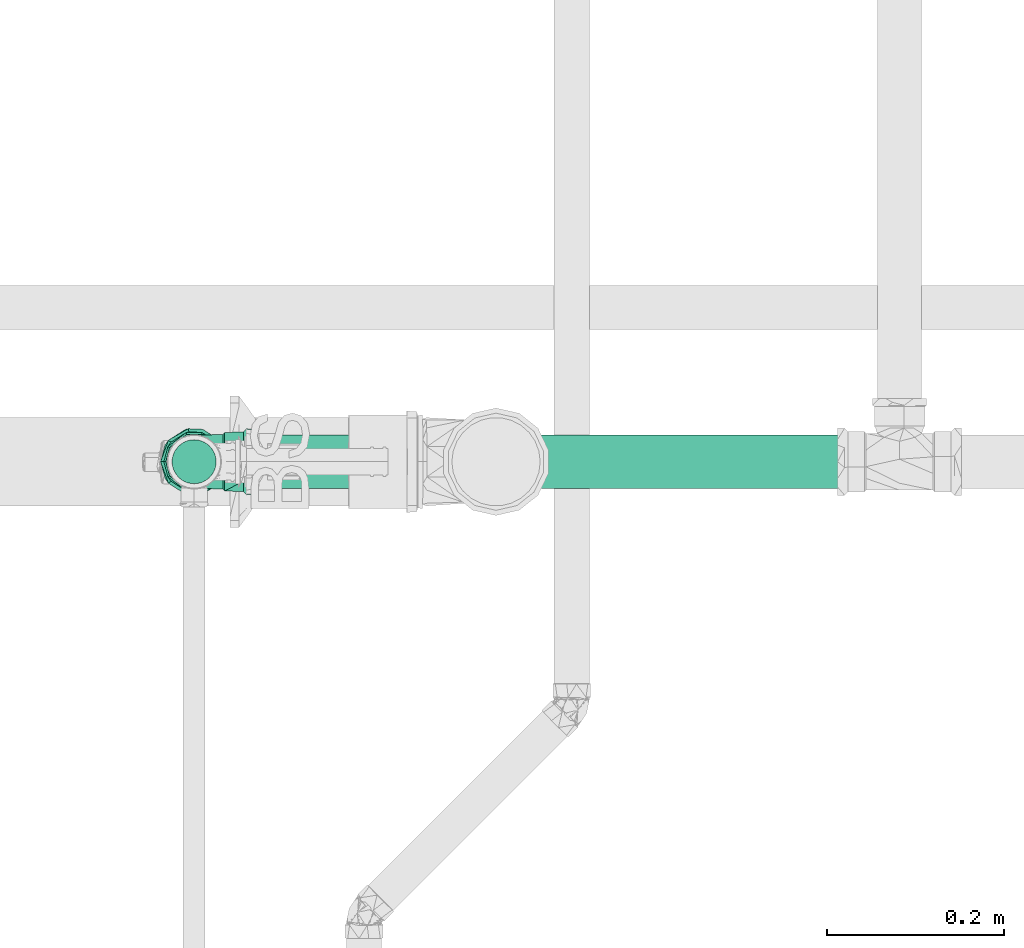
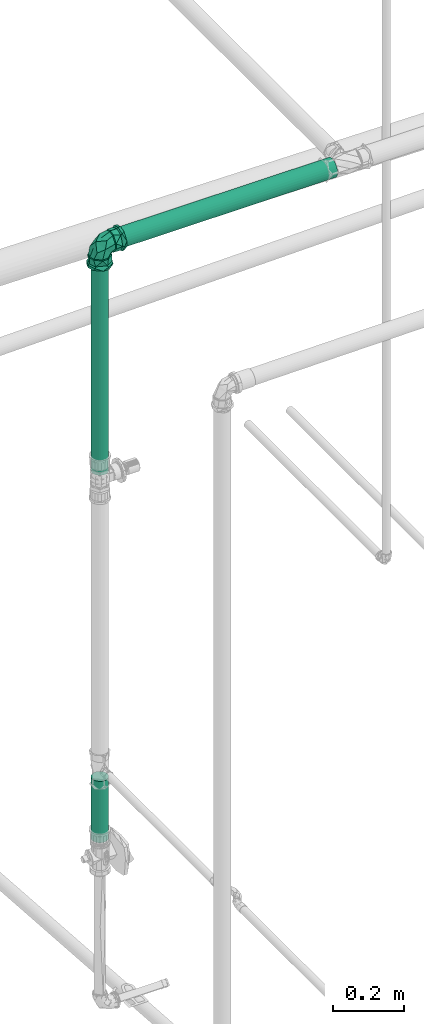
# One storey, part 82 of 589: 3 flow segments, 1 flow fitting.
"""IFC2X3 building model written with IfcOpenShell, lengths in millimetres."""

from ifc_helpers import new_model, entity, si_unit, converted_unit, derived_unit, direction, frame, frame_2d, origin, origin_2d_with_axis, place, context, subcontext, project, spatial, circle, extrude, faceted_brep, source, transform, mapped, material, type_object, type_shapes, element, save


model = new_model("IFC2X3")

# Units and contexts
model_context = context("Model", 3, precision=0.01, world=origin(), true_north=direction((6.123031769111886e-17, 1.0)))
body_context = subcontext(model_context, "Body", "Model", "MODEL_VIEW")
ifc_project = project(units=[si_unit("LENGTHUNIT", "METRE", prefix="MILLI"), si_unit("AREAUNIT", "SQUARE_METRE"), si_unit("VOLUMEUNIT", "CUBIC_METRE"), converted_unit("PLANEANGLEUNIT", "DEGREE", entity("IfcRatioMeasure", 0.017453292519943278), si_unit("PLANEANGLEUNIT", "RADIAN"), dimensions=[0, 0, 0, 0, 0, 0, 0]), si_unit("MASSUNIT", "GRAM", prefix="KILO"), derived_unit("MASSDENSITYUNIT", [(si_unit("MASSUNIT", "GRAM", prefix="KILO"), 1), (si_unit("LENGTHUNIT", "METRE"), -3)]), derived_unit("IONCONCENTRATIONUNIT", [(si_unit("MASSUNIT", "GRAM", prefix="KILO"), 1), (si_unit("LENGTHUNIT", "METRE"), -3)]), derived_unit("MOMENTOFINERTIAUNIT", [(si_unit("LENGTHUNIT", "METRE"), 4)]), si_unit("TIMEUNIT", "SECOND"), si_unit("FREQUENCYUNIT", "HERTZ"), si_unit("THERMODYNAMICTEMPERATUREUNIT", "DEGREE_CELSIUS"), derived_unit("THERMALTRANSMITTANCEUNIT", [(si_unit("MASSUNIT", "GRAM", prefix="KILO"), 1), (si_unit("THERMODYNAMICTEMPERATUREUNIT", "KELVIN"), -1), (si_unit("TIMEUNIT", "SECOND"), -3)]), derived_unit("THERMALCONDUCTANCEUNIT", [(si_unit("MASSUNIT", "GRAM", prefix="KILO"), 1), (si_unit("THERMODYNAMICTEMPERATUREUNIT", "KELVIN"), -1), (si_unit("TIMEUNIT", "SECOND"), -3), (si_unit("LENGTHUNIT", "METRE"), 1)]), derived_unit("VOLUMETRICFLOWRATEUNIT", [(si_unit("LENGTHUNIT", "METRE"), 3), (si_unit("TIMEUNIT", "SECOND"), -1)]), derived_unit("MASSFLOWRATEUNIT", [(si_unit("MASSUNIT", "GRAM", prefix="KILO"), 1), (si_unit("TIMEUNIT", "SECOND"), -1)]), derived_unit("ROTATIONALFREQUENCYUNIT", [(si_unit("TIMEUNIT", "SECOND"), -1)]), si_unit("ELECTRICCURRENTUNIT", "AMPERE"), si_unit("ELECTRICVOLTAGEUNIT", "VOLT"), si_unit("POWERUNIT", "WATT"), si_unit("FORCEUNIT", "NEWTON", prefix="KILO"), si_unit("ILLUMINANCEUNIT", "LUX"), si_unit("LUMINOUSFLUXUNIT", "LUMEN"), si_unit("LUMINOUSINTENSITYUNIT", "CANDELA"), derived_unit("USERDEFINED", [(si_unit("MASSUNIT", "GRAM", prefix="KILO"), -1), (si_unit("LENGTHUNIT", "METRE"), -2), (si_unit("TIMEUNIT", "SECOND"), 3), (si_unit("LUMINOUSFLUXUNIT", "LUMEN"), 1)]), derived_unit("USERDEFINED", [(si_unit("MASSUNIT", "GRAM", prefix="KILO"), 1), (si_unit("TIMEUNIT", "SECOND"), -3), (si_unit("LENGTHUNIT", "METRE"), 3), (si_unit("ELECTRICCURRENTUNIT", "AMPERE"), -2)]), derived_unit("SOUNDPOWERUNIT", [(si_unit("MASSUNIT", "GRAM", prefix="KILO"), 1), (si_unit("TIMEUNIT", "SECOND"), -3), (si_unit("LENGTHUNIT", "METRE"), 2)]), derived_unit("SOUNDPRESSUREUNIT", [(si_unit("MASSUNIT", "GRAM", prefix="KILO"), 1), (si_unit("LENGTHUNIT", "METRE"), -1), (si_unit("TIMEUNIT", "SECOND"), -2)]), derived_unit("LINEARVELOCITYUNIT", [(si_unit("LENGTHUNIT", "METRE"), 1), (si_unit("TIMEUNIT", "SECOND"), -1)]), si_unit("PRESSUREUNIT", "PASCAL"), derived_unit("USERDEFINED", [(si_unit("MASSUNIT", "GRAM", prefix="KILO"), 1), (si_unit("LENGTHUNIT", "METRE"), -2), (si_unit("TIMEUNIT", "SECOND"), -2)]), derived_unit("LINEARFORCEUNIT", [(si_unit("MASSUNIT", "GRAM", prefix="KILO"), 1), (si_unit("TIMEUNIT", "SECOND"), -2)]), derived_unit("PLANARFORCEUNIT", [(si_unit("MASSUNIT", "GRAM", prefix="KILO"), 1), (si_unit("LENGTHUNIT", "METRE"), -1), (si_unit("TIMEUNIT", "SECOND"), -2)]), derived_unit("SPECIFICHEATCAPACITYUNIT", [(si_unit("THERMODYNAMICTEMPERATUREUNIT", "KELVIN"), -1), (si_unit("LENGTHUNIT", "METRE"), 2), (si_unit("TIMEUNIT", "SECOND"), -2)]), derived_unit("HEATINGVALUEUNIT", [(si_unit("LENGTHUNIT", "METRE"), 2), (si_unit("TIMEUNIT", "SECOND"), -2)]), derived_unit("VAPORPERMEABILITYUNIT", [(si_unit("LENGTHUNIT", "METRE"), -1), (si_unit("TIMEUNIT", "SECOND"), 1)]), derived_unit("DYNAMICVISCOSITYUNIT", [(si_unit("MASSUNIT", "GRAM", prefix="KILO"), 1), (si_unit("TIMEUNIT", "SECOND"), -1), (si_unit("LENGTHUNIT", "METRE"), -1)]), derived_unit("THERMALEXPANSIONCOEFFICIENTUNIT", [(si_unit("THERMODYNAMICTEMPERATUREUNIT", "KELVIN"), -1)]), derived_unit("MODULUSOFELASTICITYUNIT", [(si_unit("MASSUNIT", "GRAM", prefix="KILO"), 1), (si_unit("LENGTHUNIT", "METRE"), -1), (si_unit("TIMEUNIT", "SECOND"), -2)]), derived_unit("ISOTHERMALMOISTURECAPACITYUNIT", [(si_unit("LENGTHUNIT", "METRE"), 3), (si_unit("MASSUNIT", "GRAM", prefix="KILO"), -1)]), derived_unit("MOISTUREDIFFUSIVITYUNIT", [(si_unit("TIMEUNIT", "SECOND"), -1), (si_unit("LENGTHUNIT", "METRE"), 2)])], contexts=[model_context])

# Site, building, storey
site_placement = place(None, origin())
site = spatial("IfcSite", under=ifc_project, at=site_placement, Name="Default", CompositionType="ELEMENT")
building_placement = place(site_placement, origin())
building = spatial("IfcBuilding", under=site, at=building_placement, CompositionType="ELEMENT")
storey_placement = place(building_placement, frame((0.0, 0.0, 100.0)))
storey = spatial("IfcBuildingStorey", under=building, at=storey_placement, Name="TÉRREO", CompositionType="ELEMENT", Elevation=100.0)

# Flow segments
pipe_segment_type = type_object("IfcPipeSegmentType", Name="Tipos de tubos:PVC Marrom Soldável", PredefinedType="NOTDEFINED")
flow_segment_1_placement = place(storey_placement, origin())
element("IfcFlowSegment", 1, at=flow_segment_1_placement, inside=storey, type_object=pipe_segment_type, Name="Tipos de tubos:PVC Marrom Soldável", ObjectType="Tipos de tubos:PVC Marrom Soldável", context=body_context, shape_type="SweptSolid", body=[
    extrude(circle(Radius=25.0, at=origin_2d_with_axis()), frame((-7562.714972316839, -528.9241377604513, 955.704146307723), z_axis=(0.0, 0.0, 1.0), x_axis=(-1.0, 0.0, 0.0)), (0.0, 0.0, 1.0), 211.69585369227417),
])
flow_segment_2_placement = place(storey_placement, origin())
element("IfcFlowSegment", 2, at=flow_segment_2_placement, inside=storey, type_object=pipe_segment_type, Name="Tipos de tubos:PVC Marrom Soldável", ObjectType="Tipos de tubos:PVC Marrom Soldável", context=body_context, shape_type="SweptSolid", body=[
    extrude(circle(Radius=30.0, at=frame_2d((6.767919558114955e-14, 0.0), x_axis=(1.0, 0.0))), frame((-7528.114972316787, -528.924137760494, 3000.0), z_axis=(1.0, 0.0, 0.0), x_axis=(0.0, -1.0, 0.0)), (0.0, 0.0, 1.0), 722.9444814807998),
])
flow_segment_3_placement = place(storey_placement, origin())
element("IfcFlowSegment", 3, at=flow_segment_3_placement, inside=storey, type_object=pipe_segment_type, Name="Tipos de tubos:PVC Marrom Soldável", ObjectType="Tipos de tubos:PVC Marrom Soldável", context=body_context, shape_type="SweptSolid", body=[
    extrude(circle(Radius=25.0, at=frame_2d((-1.0828671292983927e-12, 0.0), x_axis=(1.0, 0.0))), frame((-7562.714972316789, -528.9241377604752, 2221.5000000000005), z_axis=(0.0, 0.0, 1.0), x_axis=(-1.0, 0.0, 0.0)), (0.0, 0.0, 1.0), 740.1499999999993),
])

# Flow fitting
ifc_material = material(Name="PVC Marrom")
pipe_fitting_type = type_object("IfcPipeFittingType", Name="PVC Marrom Soldável_Joelho 45°_90°_Rodrigo MEP:Joelho", PredefinedType="NOTDEFINED", material=ifc_material)
shared_shape = source(origin(), body_context, "Body", "Brep", [
    faceted_brep([(-29.704671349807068, 34.60000000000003, 17.149999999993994), (-19.29108229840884, 34.600000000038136, 25.14062792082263), (-8.877493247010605, 34.60000000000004, 33.13125584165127), (8.877493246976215, 34.60000000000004, 33.13125584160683), (19.291082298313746, 34.60000000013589, 25.140627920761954), (29.70467134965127, 34.600000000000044, 17.149999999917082), (34.29999999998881, 34.600000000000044, 0.0), (29.7046713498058, 34.600000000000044, -17.150000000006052), (19.29108229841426, 34.599999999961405, -25.140627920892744), (8.877493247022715, 34.60000000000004, -33.13125584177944), (-8.877493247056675, 34.60000000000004, -33.13125584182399), (-19.291082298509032, 34.599999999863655, -25.140627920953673), (-29.704671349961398, 34.60000000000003, -17.150000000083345), (-34.30000000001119, 34.60000000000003, 0.0), (8.321032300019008, 32.400000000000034, 31.054515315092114), (-8.32103230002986, 32.400000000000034, 31.054515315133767), (-18.08187451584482, 32.40000000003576, 23.56475765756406), (-27.84271673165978, 32.40000000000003, 16.07499999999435), (-32.15000000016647, 32.40000000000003, 0.0), (-27.842716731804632, 32.40000000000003, -16.075000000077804), (-18.08187451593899, 32.399999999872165, -23.564757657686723), (-8.32103230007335, 32.400000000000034, -31.054515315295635), (8.32103230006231, 32.400000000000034, -31.054515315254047), (18.081874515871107, 32.399999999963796, -23.56475765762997), (27.8427167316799, 32.40000000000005, -16.07500000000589), (32.14999999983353, 32.40000000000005, 0.0), (27.84271673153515, 32.40000000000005, 16.074999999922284), (18.08187451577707, 32.400000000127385, 23.564757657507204)], [[[0, 1, 2, 3, 4, 5, 6, 7, 8, 9, 10, 11, 12, 13]], [[14, 15, 16, 17, 18, 19, 20, 21, 22, 23, 24, 25, 26, 27]], [[7, 25, 24]], [[9, 8, 7, 24, 23, 22]], [[20, 19, 12, 11, 10, 21]], [[7, 6, 25]], [[22, 21, 10, 9]], [[13, 19, 18]], [[13, 12, 19]], [[0, 18, 17]], [[2, 1, 0, 17, 16, 15]], [[27, 26, 5, 4, 3, 14]], [[0, 13, 18]], [[15, 14, 3, 2]], [[6, 26, 25]], [[6, 5, 26]]]),
    faceted_brep([(-34.599999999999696, -8.877493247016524, 33.13125584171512), (-34.599999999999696, 8.877493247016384, 33.13125584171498), (-34.59999999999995, 19.291082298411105, 25.140627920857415), (-34.599999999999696, 29.704671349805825, 17.14999999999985), (-34.599999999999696, 34.3, 0.0), (-34.599999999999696, 29.704671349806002, -17.149999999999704), (-34.60000000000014, 19.29108229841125, -25.140627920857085), (-34.599999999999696, 8.877493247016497, -33.13125584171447), (-34.599999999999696, -8.877493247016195, -33.131255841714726), (-34.59999999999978, -19.291082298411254, -25.1406279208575), (-34.599999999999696, -29.704671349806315, -17.150000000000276), (-34.599999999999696, -34.3, 0.0), (-34.599999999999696, -29.704671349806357, 17.15000000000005), (-34.59999999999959, -19.291082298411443, 25.14062792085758), (-32.3999999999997, 32.149999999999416, 0.0), (-32.3999999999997, 27.84271673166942, 16.074999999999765), (-32.39999999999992, 18.081874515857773, 23.564757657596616), (-32.3999999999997, 8.321032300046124, 31.054515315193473), (-32.3999999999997, -8.321032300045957, 31.05451531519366), (-32.39999999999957, -18.08187451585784, 23.564757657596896), (-32.3999999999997, -27.84271673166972, 16.075000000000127), (-32.3999999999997, -32.15000000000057, 0.0), (-32.3999999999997, -27.842716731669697, -16.07500000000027), (-32.39999999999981, -18.08187451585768, -23.56475765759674), (-32.3999999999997, -8.321032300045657, -31.054515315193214), (-32.3999999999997, 8.321032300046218, -31.05451531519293), (-32.40000000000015, 18.081874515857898, -23.56475765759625), (-32.3999999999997, 27.842716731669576, -16.074999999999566)], [[[0, 1, 2, 3, 4, 5, 6, 7, 8, 9, 10, 11, 12, 13]], [[14, 15, 16, 17, 18, 19, 20, 21, 22, 23, 24, 25, 26, 27]], [[5, 4, 14, 27]], [[7, 6, 5, 27, 26, 25]], [[23, 22, 10, 9, 8, 24]], [[25, 24, 8, 7]], [[11, 10, 22, 21]], [[12, 11, 21, 20]], [[0, 13, 12, 20, 19, 18]], [[16, 15, 3, 2, 1, 17]], [[18, 17, 1, 0]], [[4, 3, 15, 14]]]),
    faceted_brep([(-67.29999999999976, -9.835123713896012, -36.70518139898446), (-67.29999999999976, 0.0, -30.0), (-67.29999999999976, 9.835123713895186, -36.705181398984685), (-67.29999999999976, -15.0, -25.98076211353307), (-67.29999999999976, -32.90896534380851, -19.0), (-67.29999999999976, -28.977774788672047, -7.764571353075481), (-67.29999999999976, -38.0, 0.0), (-67.29999999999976, -28.97777478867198, 7.764571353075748), (-67.29999999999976, -32.90896534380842, 19.0), (-67.29999999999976, -15.0, 25.98076211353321), (-67.29999999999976, -9.835123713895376, 36.70518139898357), (-67.29999999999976, 0.0, 30.0), (-67.29999999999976, 9.835123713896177, 36.70518139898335), (-67.29999999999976, 15.0, 25.980762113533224), (-67.29999999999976, 32.90896534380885, 19.0), (-67.29999999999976, 28.977774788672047, 7.764571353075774), (-67.29999999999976, 38.0, 0.0), (-67.29999999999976, 28.977774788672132, -7.764571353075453), (-67.29999999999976, 32.90896534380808, -19.0), (-67.29999999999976, 15.0, -25.980762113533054), (-59.29999999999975, 38.0, 0.0), (-59.30000000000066, 29.109098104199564, 24.426633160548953), (-59.30000000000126, 6.596820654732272, 37.42301373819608), (-59.30000000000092, -29.111756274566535, 24.42346508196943), (-59.29999999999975, -38.0, 0.0), (-59.29999999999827, -29.111756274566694, -24.423465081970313), (-59.29999999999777, -6.600893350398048, -37.42229558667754), (-59.29999999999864, 29.109098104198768, -24.426633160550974), (-55.60000000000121, -26.279625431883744, 22.042488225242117), (-55.60000000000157, 5.952366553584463, 33.779569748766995), (-55.59999999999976, -34.3, 0.0), (-55.60000000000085, 26.274095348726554, 22.049079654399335), (-55.59999999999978, 34.299999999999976, 0.0), (-55.59999999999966, 26.27409534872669, -22.04907965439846), (-55.59999999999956, -5.960839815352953, -33.77807556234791), (-55.59999999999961, -26.279625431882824, -22.042488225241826), (-34.59999999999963, -15.0, -25.98076211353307), (-34.59999999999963, -8.877493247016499, -33.13125584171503), (-34.59999999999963, 0.0, -30.0), (-34.59999999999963, -29.704671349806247, -17.149999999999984), (-34.59999999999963, -28.977774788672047, -7.764571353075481), (-34.59999999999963, -34.3, 0.0), (-34.59999999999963, -28.97777478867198, 7.764571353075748), (-34.59999999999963, -29.70467134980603, 17.150000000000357), (-34.59999999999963, -15.0, 25.98076211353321), (-34.59999999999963, -8.877493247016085, 33.13125584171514), (-34.59999999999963, 0.0, 30.0), (-34.59999999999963, 8.877493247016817, 33.131255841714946), (-34.59999999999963, 15.0, 25.980762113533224), (-34.59999999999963, 29.70467134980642, 17.1499999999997), (-34.59999999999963, 28.977774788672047, 7.764571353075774), (-34.59999999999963, 34.300000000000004, 0.0), (-34.59999999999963, 28.977774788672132, -7.764571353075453), (-34.59999999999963, 29.704671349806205, -17.150000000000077), (-34.59999999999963, 15.0, -25.980762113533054), (-34.59999999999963, 8.877493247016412, -33.13125584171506)], [[[0, 1, 2]], [[1, 0, 3]], [[4, 3, 0]], [[3, 4, 5]], [[5, 4, 6]], [[7, 5, 6]], [[7, 6, 8]], [[8, 9, 7]], [[8, 10, 9]], [[9, 10, 11]], [[12, 11, 10]], [[13, 11, 12]], [[13, 12, 14]], [[14, 15, 13]], [[15, 14, 16]], [[15, 16, 17]], [[18, 17, 16]], [[2, 19, 18]], [[17, 18, 19]], [[19, 2, 1]], [[16, 14, 20]], [[14, 21, 20]], [[21, 14, 12]], [[21, 12, 22]], [[23, 10, 8]], [[24, 8, 6]], [[10, 23, 22]], [[23, 8, 24]], [[10, 22, 12]], [[6, 4, 24]], [[4, 25, 24]], [[25, 4, 0]], [[25, 0, 26]], [[27, 2, 18]], [[20, 18, 16]], [[2, 27, 26]], [[27, 18, 20]], [[2, 26, 0]], [[28, 29, 23]], [[30, 28, 24]], [[24, 28, 23]], [[29, 22, 23]], [[31, 32, 21]], [[21, 22, 31]], [[20, 21, 32]], [[31, 22, 29]], [[32, 33, 27]], [[27, 20, 32]], [[26, 27, 33]], [[33, 34, 26]], [[35, 30, 24]], [[35, 25, 34]], [[25, 35, 24]], [[34, 25, 26]], [[36, 37, 38]], [[39, 37, 36]], [[36, 40, 39]], [[40, 41, 39]], [[42, 41, 40]], [[41, 42, 43]], [[44, 43, 42]], [[43, 44, 45]], [[46, 45, 44]], [[47, 45, 46]], [[48, 47, 46]], [[47, 48, 49]], [[50, 49, 48]], [[49, 50, 51]], [[51, 50, 52]], [[51, 52, 53]], [[53, 52, 54]], [[54, 38, 55]], [[55, 53, 54]], [[37, 55, 38]], [[32, 31, 49]], [[32, 49, 51]], [[49, 31, 47]], [[31, 29, 47]], [[45, 29, 28]], [[43, 28, 30]], [[28, 43, 45]], [[43, 30, 41]], [[29, 45, 47]], [[30, 35, 39]], [[30, 39, 41]], [[39, 35, 37]], [[35, 34, 37]], [[55, 34, 33]], [[53, 33, 32]], [[33, 53, 55]], [[53, 32, 51]], [[34, 55, 37]], [[9, 11, 46, 44]], [[7, 9, 44, 42]], [[42, 40, 5, 7]], [[3, 5, 40, 36]], [[1, 3, 36, 38]], [[19, 1, 38, 54]], [[17, 19, 54, 52]], [[52, 50, 15, 17]], [[13, 15, 50, 48]], [[11, 13, 48, 46]]]),
    faceted_brep([(-32.399999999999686, -8.32103230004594, -31.054515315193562), (-32.39999999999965, -27.84271673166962, -16.075000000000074), (-32.39999999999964, -32.149999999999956, 0.0), (-32.39999999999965, -27.842716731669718, 16.074999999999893), (-32.399999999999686, -8.321032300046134, 31.054515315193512), (-32.39999999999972, 8.321032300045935, 31.054515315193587), (-32.39999999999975, 27.842716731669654, 16.075000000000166), (-32.399999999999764, 32.15000000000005, 0.0), (-32.39999999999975, 27.842716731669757, -16.074999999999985), (-32.39999999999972, 8.32103230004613, -31.054515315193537), (-8.321032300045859, 32.39999999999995, -31.054515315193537), (-27.842716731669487, 32.40000000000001, -16.074999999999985), (-32.14999999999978, 32.40000000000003, 0.0), (-27.842716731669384, 32.40000000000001, 16.075000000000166), (-8.321032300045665, 32.39999999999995, 31.054515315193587), (8.321032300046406, 32.3999999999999, 31.054515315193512), (27.842716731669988, 32.399999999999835, 16.074999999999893), (32.150000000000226, 32.39999999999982, 0.0), (27.84271673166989, 32.399999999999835, -16.075000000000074), (8.32103230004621, 32.3999999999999, -31.054515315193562), (-0.8536947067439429, 0.8536917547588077, 29.73987024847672), (-11.305135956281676, -20.93489151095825, 20.269855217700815), (-3.4548297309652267, -20.160517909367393, 0.0), (13.243742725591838, -13.243742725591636, 0.0), (20.93489020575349, 11.305132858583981, 20.26985530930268), (-32.22322330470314, 32.2232233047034, 0.0), (-18.88266617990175, 18.88266585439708, 29.27743828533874), (20.160517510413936, 3.4548287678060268, 0.0), (-11.305135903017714, -20.9348914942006, -20.269855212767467), (-18.88266604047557, 18.882665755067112, -29.277438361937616), (-0.8536944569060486, 0.853691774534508, -29.739870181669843), (20.93489014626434, 11.305132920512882, -20.269855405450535)], [[[0, 1, 2, 3, 4, 5, 6, 7, 8, 9]], [[10, 11, 12, 13, 14, 15, 16, 17, 18, 19]], [[4, 20, 5]], [[21, 3, 22]], [[23, 21, 22]], [[15, 20, 24]], [[21, 4, 3]], [[25, 6, 13]], [[23, 24, 20]], [[25, 7, 6]], [[6, 5, 26]], [[3, 2, 22]], [[20, 21, 23]], [[27, 17, 16]], [[20, 26, 5]], [[20, 4, 21]], [[24, 27, 16]], [[6, 26, 13]], [[25, 13, 12]], [[24, 16, 15]], [[20, 14, 26]], [[14, 13, 26]], [[24, 23, 27]], [[14, 20, 15]], [[28, 23, 22]], [[28, 1, 0]], [[29, 8, 11]], [[29, 30, 9]], [[2, 1, 22]], [[30, 19, 31]], [[1, 28, 22]], [[30, 0, 9]], [[23, 28, 30]], [[30, 29, 10]], [[8, 7, 25]], [[25, 12, 11]], [[23, 31, 27]], [[0, 30, 28]], [[11, 10, 29]], [[30, 10, 19]], [[18, 17, 27]], [[23, 30, 31]], [[8, 29, 9]], [[31, 19, 18]], [[18, 27, 31]], [[11, 8, 25]]]),
    faceted_brep([(-15.0, 34.60000000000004, -25.98076211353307), (-8.877493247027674, 34.60000000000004, -33.13125584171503), (0.0, 34.600000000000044, -30.0), (-29.704671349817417, 34.60000000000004, -17.149999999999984), (-28.977774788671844, 34.60000000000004, -7.764571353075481), (-34.30000000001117, 34.60000000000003, 0.0), (-28.977774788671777, 34.60000000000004, 7.764571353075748), (-29.704671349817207, 34.60000000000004, 17.150000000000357), (-15.0, 34.60000000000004, 25.980762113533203), (-8.87749324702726, 34.60000000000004, 33.13125584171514), (0.0, 34.600000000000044, 30.0), (8.877493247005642, 34.60000000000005, 33.131255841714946), (15.0, 34.60000000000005, 25.980762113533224), (29.704671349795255, 34.60000000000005, 17.149999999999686), (28.97777478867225, 34.60000000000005, 7.764571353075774), (34.29999999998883, 34.60000000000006, 0.0), (28.977774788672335, 34.60000000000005, -7.764571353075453), (29.704671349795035, 34.60000000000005, -17.150000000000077), (15.0, 34.60000000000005, -25.980762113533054), (8.877493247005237, 34.60000000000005, -33.13125584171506), (34.29999999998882, 55.600000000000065, 0.0), (26.2740953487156, 55.60000000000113, 22.049079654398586), (-5.960839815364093, 55.60000000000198, 33.77807556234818), (-26.279625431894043, 55.60000000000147, 22.042488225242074), (-34.30000000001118, 55.600000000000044, 0.0), (-26.279625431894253, 55.6000000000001, -22.04248822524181), (5.952366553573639, 55.599999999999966, -33.779569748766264), (26.27409534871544, 55.59999999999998, -22.049079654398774), (-29.10909810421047, 59.3000000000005, 24.426633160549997), (-38.0, 59.30000000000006, 0.0), (-6.59682065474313, 59.300000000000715, 37.42301373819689), (29.11175627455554, 59.30000000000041, 24.423465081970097), (38.0, 59.29999999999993, 0.0), (29.11175627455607, 59.30000000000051, -24.42346508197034), (6.600893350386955, 59.30000000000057, -37.42229558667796), (-29.109098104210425, 59.30000000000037, -24.426633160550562), (-9.835123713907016, 67.30000000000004, -36.705181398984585), (-15.0, 67.30000000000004, -25.98076211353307), (0.0, 67.30000000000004, -30.0), (-32.90896534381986, 67.30000000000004, -19.0), (9.835123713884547, 67.30000000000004, -36.705181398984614), (-28.97777478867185, 67.30000000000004, -7.764571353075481), (-38.0, 67.30000000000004, 0.0), (-28.977774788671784, 67.30000000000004, 7.764571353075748), (-32.90896534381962, 67.30000000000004, 19.0), (-15.0, 67.30000000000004, 25.98076211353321), (-9.835123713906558, 67.30000000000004, 36.705181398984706), (0.0, 67.30000000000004, 30.0), (9.835123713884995, 67.30000000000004, 36.705181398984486), (15.0, 67.30000000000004, 25.980762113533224), (32.90896534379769, 67.30000000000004, 19.0), (28.97777478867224, 67.30000000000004, 7.764571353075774), (38.0, 67.30000000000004, 0.0), (28.977774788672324, 67.30000000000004, -7.764571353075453), (32.90896534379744, 67.30000000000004, -19.0), (15.0, 67.30000000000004, -25.980762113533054)], [[[0, 1, 2]], [[3, 1, 0]], [[0, 4, 3]], [[4, 5, 3]], [[6, 5, 4]], [[5, 6, 7]], [[8, 7, 6]], [[7, 8, 9]], [[10, 9, 8]], [[11, 9, 10]], [[12, 11, 10]], [[11, 12, 13]], [[14, 13, 12]], [[13, 14, 15]], [[15, 14, 16]], [[15, 16, 17]], [[17, 16, 18]], [[18, 2, 19]], [[19, 17, 18]], [[1, 19, 2]], [[20, 21, 13]], [[20, 13, 15]], [[13, 21, 11]], [[21, 22, 11]], [[9, 22, 23]], [[7, 23, 24]], [[23, 7, 9]], [[7, 24, 5]], [[22, 9, 11]], [[24, 25, 3]], [[24, 3, 5]], [[3, 25, 1]], [[25, 26, 1]], [[19, 26, 27]], [[17, 27, 20]], [[27, 17, 19]], [[17, 20, 15]], [[26, 19, 1]], [[23, 22, 28]], [[24, 23, 29]], [[29, 23, 28]], [[22, 30, 28]], [[21, 20, 31]], [[31, 30, 21]], [[32, 31, 20]], [[21, 30, 22]], [[20, 27, 33]], [[33, 32, 20]], [[34, 33, 27]], [[27, 26, 34]], [[25, 24, 29]], [[25, 35, 26]], [[35, 25, 29]], [[26, 35, 34]], [[36, 37, 38]], [[37, 36, 39]], [[38, 40, 36]], [[39, 41, 37]], [[39, 42, 41]], [[41, 42, 43]], [[44, 43, 42]], [[43, 44, 45]], [[46, 45, 44]], [[45, 46, 47]], [[47, 46, 48]], [[48, 49, 47]], [[50, 49, 48]], [[49, 50, 51]], [[52, 51, 50]], [[52, 53, 51]], [[54, 53, 52]], [[55, 53, 54]], [[55, 54, 40]], [[40, 38, 55]], [[52, 50, 32]], [[50, 31, 32]], [[31, 50, 48]], [[31, 48, 30]], [[28, 46, 44]], [[29, 44, 42]], [[46, 28, 30]], [[28, 44, 29]], [[46, 30, 48]], [[42, 39, 29]], [[39, 35, 29]], [[35, 39, 36]], [[35, 36, 34]], [[33, 40, 54]], [[32, 54, 52]], [[40, 33, 34]], [[33, 54, 32]], [[40, 34, 36]], [[45, 47, 10, 8]], [[43, 45, 8, 6]], [[6, 4, 41, 43]], [[37, 41, 4, 0]], [[38, 37, 0, 2]], [[55, 38, 2, 18]], [[53, 55, 18, 16]], [[16, 14, 51, 53]], [[49, 51, 14, 12]], [[47, 49, 12, 10]]]),
])
type_shapes(pipe_fitting_type, [shared_shape])
flow_fitting_placement = place(storey_placement, frame((-7562.714972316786, -528.9241377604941, 3000.0), z_axis=(0.0, -1.0, 0.0), x_axis=(-1.0, 0.0, 0.0)))
element("IfcFlowFitting", 4, at=flow_fitting_placement, inside=storey, type_object=pipe_fitting_type, material=ifc_material, Name="PVC Marrom Soldável_Joelho 45°_90°_Rodrigo MEP:Joelho", ObjectType="PVC Marrom Soldável_Joelho 45°_90°_Rodrigo MEP:Joelho", context=body_context, shape_type="MappedRepresentation", body=[
    mapped(shared_shape, transform((0.0, 0.0, 0.0), scale=1.0)),
])

save(model, "model.ifc")
